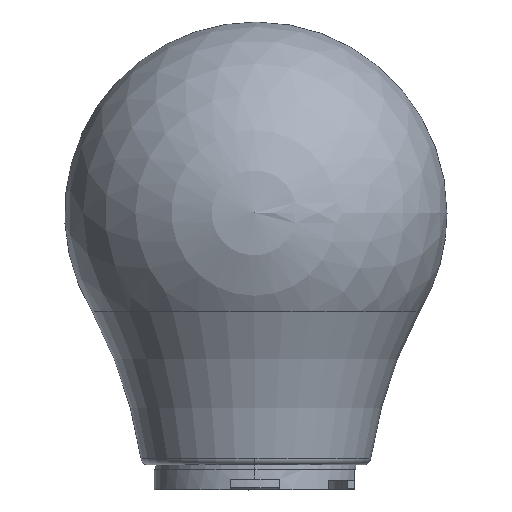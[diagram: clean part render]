
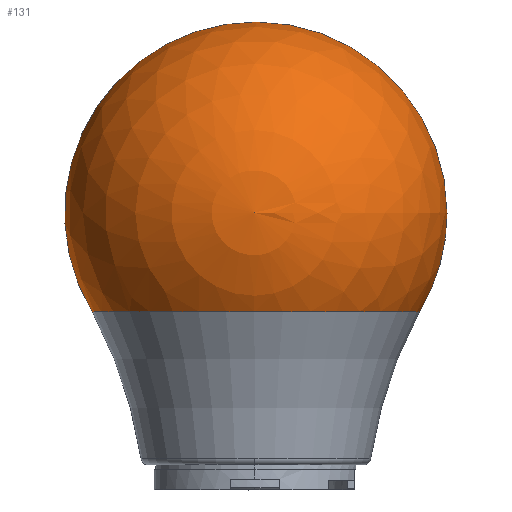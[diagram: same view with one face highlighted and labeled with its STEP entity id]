
A CAD part, top view. The second image highlights one B-rep face of the part: STEP entity #131.
In plain terms, the highlighted spherical face has radius 27.5 mm.
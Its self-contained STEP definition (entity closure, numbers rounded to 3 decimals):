
#93 = VERTEX_POINT('',#94);
#94 = CARTESIAN_POINT('',(23.55,-14.2,0.));
#102 = VERTEX_POINT('',#103);
#103 = CARTESIAN_POINT('',(-23.55,-14.2,0.));
#131 = ADVANCED_FACE('',(#132),#180,.T.);
#132 = FACE_BOUND('',#133,.T.);
#133 = EDGE_LOOP('',(#134,#143,#156,#157,#166,#173));
#134 = ORIENTED_EDGE('',*,*,#135,.F.);
#135 = EDGE_CURVE('',#136,#93,#138,.T.);
#136 = VERTEX_POINT('',#137);
#137 = CARTESIAN_POINT('',(27.5,0.,0.));
#138 = CIRCLE('',#139,27.5);
#139 = AXIS2_PLACEMENT_3D('',#140,#141,#142);
#140 = CARTESIAN_POINT('',(0.,0.,0.));
#141 = DIRECTION('',(0.,0.,-1.));
#142 = DIRECTION('',(-1.,0.,0.));
#143 = ORIENTED_EDGE('',*,*,#144,.T.);
#144 = EDGE_CURVE('',#136,#145,#147,.T.);
#145 = VERTEX_POINT('',#146);
#146 = CARTESIAN_POINT('',(0.,0.,27.5));
#147 = B_SPLINE_CURVE_WITH_KNOTS('',7,(#148,#149,#150,#151,#152,#153,
    #154,#155),.UNSPECIFIED.,.F.,.F.,(8,8),(0.,1.571),
  .PIECEWISE_BEZIER_KNOTS.);
#148 = CARTESIAN_POINT('',(27.5,0.,0.));
#149 = CARTESIAN_POINT('',(27.5,0.,6.171));
#150 = CARTESIAN_POINT('',(25.884,0.,12.342));
#151 = CARTESIAN_POINT('',(22.653,0.,18.006));
#152 = CARTESIAN_POINT('',(18.006,0.,22.653));
#153 = CARTESIAN_POINT('',(12.342,0.,25.884));
#154 = CARTESIAN_POINT('',(6.171,0.,27.5));
#155 = CARTESIAN_POINT('',(0.,0.,27.5));
#156 = ORIENTED_EDGE('',*,*,#144,.F.);
#157 = ORIENTED_EDGE('',*,*,#158,.F.);
#158 = EDGE_CURVE('',#159,#136,#161,.T.);
#159 = VERTEX_POINT('',#160);
#160 = CARTESIAN_POINT('',(0.,27.5,0.));
#161 = CIRCLE('',#162,27.5);
#162 = AXIS2_PLACEMENT_3D('',#163,#164,#165);
#163 = CARTESIAN_POINT('',(0.,0.,0.));
#164 = DIRECTION('',(0.,0.,-1.));
#165 = DIRECTION('',(-1.,0.,0.));
#166 = ORIENTED_EDGE('',*,*,#167,.T.);
#167 = EDGE_CURVE('',#159,#102,#168,.T.);
#168 = CIRCLE('',#169,27.5);
#169 = AXIS2_PLACEMENT_3D('',#170,#171,#172);
#170 = CARTESIAN_POINT('',(0.,0.,0.));
#171 = DIRECTION('',(0.,0.,1.));
#172 = DIRECTION('',(1.,0.,0.));
#173 = ORIENTED_EDGE('',*,*,#174,.F.);
#174 = EDGE_CURVE('',#93,#102,#175,.T.);
#175 = CIRCLE('',#176,23.55);
#176 = AXIS2_PLACEMENT_3D('',#177,#178,#179);
#177 = CARTESIAN_POINT('',(0.,-14.2,0.));
#178 = DIRECTION('',(0.,-1.,-0.));
#179 = DIRECTION('',(1.,0.,0.));
#180 = SPHERICAL_SURFACE('',#181,27.5);
#181 = AXIS2_PLACEMENT_3D('',#182,#183,#184);
#182 = CARTESIAN_POINT('',(0.,0.,0.));
#183 = DIRECTION('',(0.,-0.,1.));
#184 = DIRECTION('',(1.,0.,0.));
